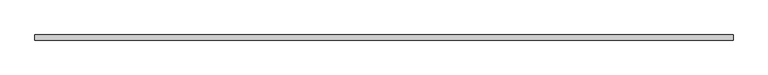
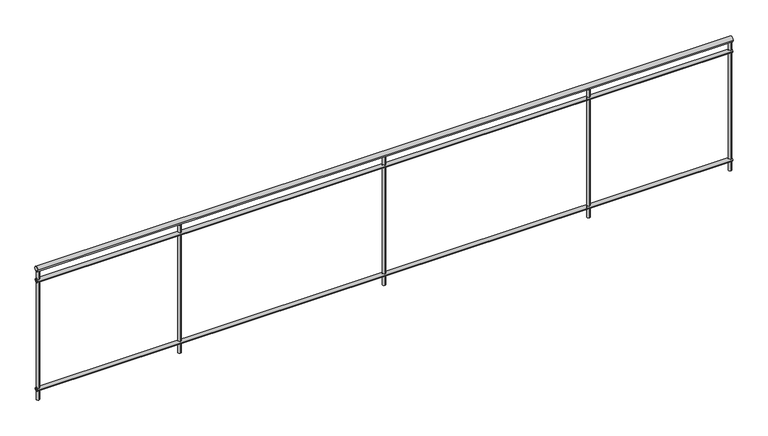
"""IFC4 building model written with IfcOpenShell, lengths in millimetres: railing geometry, バルコニー手摺."""

from ifc_helpers import new_model, si_unit, point, frame, frame_2d, origin, place, context, project, spatial, circle_curve, trimmed, segment, composite_curve, outline, extrude, source, transform, mapped, element, save


def railing_1331f4de(model_context):
    return source(origin(), model_context, "Body", "SweptSolid", [
        extrude(outline(composite_curve([segment(trimmed(circle_curve(frame_2d((10035.2598658, 4980.0)), 20.0), [point((10055.2598658, 4980.0))], [point((10015.2598658, 4980.0))], False, "CARTESIAN"), True, "CONTINUOUS"), segment(trimmed(circle_curve(frame_2d((10035.2598658, 4980.0)), 20.0), [point((10015.2598658, 4980.0))], [point((10055.2598658, 4980.0))], False, "CARTESIAN"), True, "CONTINUOUS")], self_intersect=False)), frame((-3045.6194095, 0.0, 0.0), z_axis=(1.0, 0.0, 0.0), x_axis=(0.0, 1.0, 0.0)), (0.0, 0.0, 1.0), 5440.0),
        extrude(outline(composite_curve([segment(trimmed(circle_curve(frame_2d((10035.2598658, 4885.0)), 15.0), [point((10050.2598658, 4885.0))], [point((10020.2598658, 4885.0))], False, "CARTESIAN"), True, "CONTINUOUS"), segment(trimmed(circle_curve(frame_2d((10035.2598658, 4885.0)), 15.0), [point((10020.2598658, 4885.0))], [point((10050.2598658, 4885.0))], False, "CARTESIAN"), True, "CONTINUOUS")], self_intersect=False)), frame((-3045.6194095, 0.0, 0.0), z_axis=(1.0, 0.0, 0.0), x_axis=(0.0, 1.0, 0.0)), (0.0, 0.0, 1.0), 5440.0),
        extrude(outline(composite_curve([segment(trimmed(circle_curve(frame_2d((10035.2598658, 3985.0)), 15.0), [point((10050.2598658, 3985.0))], [point((10020.2598658, 3985.0))], False, "CARTESIAN"), True, "CONTINUOUS"), segment(trimmed(circle_curve(frame_2d((10035.2598658, 3985.0)), 15.0), [point((10020.2598658, 3985.0))], [point((10050.2598658, 3985.0))], False, "CARTESIAN"), True, "CONTINUOUS")], self_intersect=False)), frame((-3045.6194095, 0.0, 0.0), z_axis=(1.0, 0.0, 0.0), x_axis=(0.0, 1.0, 0.0)), (0.0, 0.0, 1.0), 5440.0),
        extrude(outline(composite_curve([segment(trimmed(circle_curve(frame_2d((-1925.6194095, 10035.2598658)), 12.5), [point((-1925.6194095, 10047.7598658))], [point((-1925.6194095, 10022.7598658))], False, "CARTESIAN"), True, "CONTINUOUS"), segment(trimmed(circle_curve(frame_2d((-1925.6194095, 10035.2598658)), 12.5), [point((-1925.6194095, 10022.7598658))], [point((-1925.6194095, 10047.7598658))], False, "CARTESIAN"), True, "CONTINUOUS")], self_intersect=False)), frame((0.0, 0.0, 3900.0), z_axis=(0.0, 0.0, 1.0), x_axis=(1.0, 0.0, 0.0)), (0.0, 0.0, 1.0), 1060.0),
        extrude(outline(composite_curve([segment(trimmed(circle_curve(frame_2d((-325.6194095, 10035.2598658)), 12.5), [point((-325.6194095, 10047.7598658))], [point((-325.6194095, 10022.7598658))], False, "CARTESIAN"), True, "CONTINUOUS"), segment(trimmed(circle_curve(frame_2d((-325.6194095, 10035.2598658)), 12.5), [point((-325.6194095, 10022.7598658))], [point((-325.6194095, 10047.7598658))], False, "CARTESIAN"), True, "CONTINUOUS")], self_intersect=False)), frame((0.0, 0.0, 3900.0), z_axis=(0.0, 0.0, 1.0), x_axis=(1.0, 0.0, 0.0)), (0.0, 0.0, 1.0), 1060.0),
        extrude(outline(composite_curve([segment(trimmed(circle_curve(frame_2d((1274.3805905, 10035.2598658)), 12.5), [point((1274.3805905, 10047.7598658))], [point((1274.3805905, 10022.7598658))], False, "CARTESIAN"), True, "CONTINUOUS"), segment(trimmed(circle_curve(frame_2d((1274.3805905, 10035.2598658)), 12.5), [point((1274.3805905, 10022.7598658))], [point((1274.3805905, 10047.7598658))], False, "CARTESIAN"), True, "CONTINUOUS")], self_intersect=False)), frame((0.0, 0.0, 3900.0), z_axis=(0.0, 0.0, 1.0), x_axis=(1.0, 0.0, 0.0)), (0.0, 0.0, 1.0), 1060.0),
        extrude(outline(composite_curve([segment(trimmed(circle_curve(frame_2d((-3033.4194095, 10035.2598658)), 12.5), [point((-3033.4194095, 10047.7598658))], [point((-3033.4194095, 10022.7598658))], False, "CARTESIAN"), True, "CONTINUOUS"), segment(trimmed(circle_curve(frame_2d((-3033.4194095, 10035.2598658)), 12.5), [point((-3033.4194095, 10022.7598658))], [point((-3033.4194095, 10047.7598658))], False, "CARTESIAN"), True, "CONTINUOUS")], self_intersect=False)), frame((0.0, 0.0, 3900.0), z_axis=(0.0, 0.0, 1.0), x_axis=(1.0, 0.0, 0.0)), (0.0, 0.0, 1.0), 1060.0),
        extrude(outline(composite_curve([segment(trimmed(circle_curve(frame_2d((2382.1805905, 10035.2598658)), 12.5), [point((2382.1805905, 10047.7598658))], [point((2382.1805905, 10022.7598658))], False, "CARTESIAN"), True, "CONTINUOUS"), segment(trimmed(circle_curve(frame_2d((2382.1805905, 10035.2598658)), 12.5), [point((2382.1805905, 10022.7598658))], [point((2382.1805905, 10047.7598658))], False, "CARTESIAN"), True, "CONTINUOUS")], self_intersect=False)), frame((0.0, 0.0, 3900.0), z_axis=(0.0, 0.0, 1.0), x_axis=(1.0, 0.0, 0.0)), (0.0, 0.0, 1.0), 1060.0),
    ])


if __name__ == "__main__":
    model = new_model("IFC4")
    model_context = context("Model", 3, world=origin())
    ifc_project = project(units=[si_unit("LENGTHUNIT", "METRE", prefix="MILLI")], contexts=[model_context])
    site = spatial("IfcSite", under=ifc_project)
    building = spatial("IfcBuilding", under=site)
    placement = place(None, origin())
    railing_shape = railing_1331f4de(model_context)
    element("IfcRailing", 1, ObjectType="バルコニー手摺", at=placement, inside=building, context=model_context, shape_type="MappedRepresentation", body=[
        mapped(railing_shape, transform((0.0, 0.0, 0.0), x_axis=(1.0, 0.0, 0.0), y_axis=(0.0, 1.0, 0.0), z_axis=(0.0, 0.0, 1.0))),
    ])
    save(model, "model.ifc")
